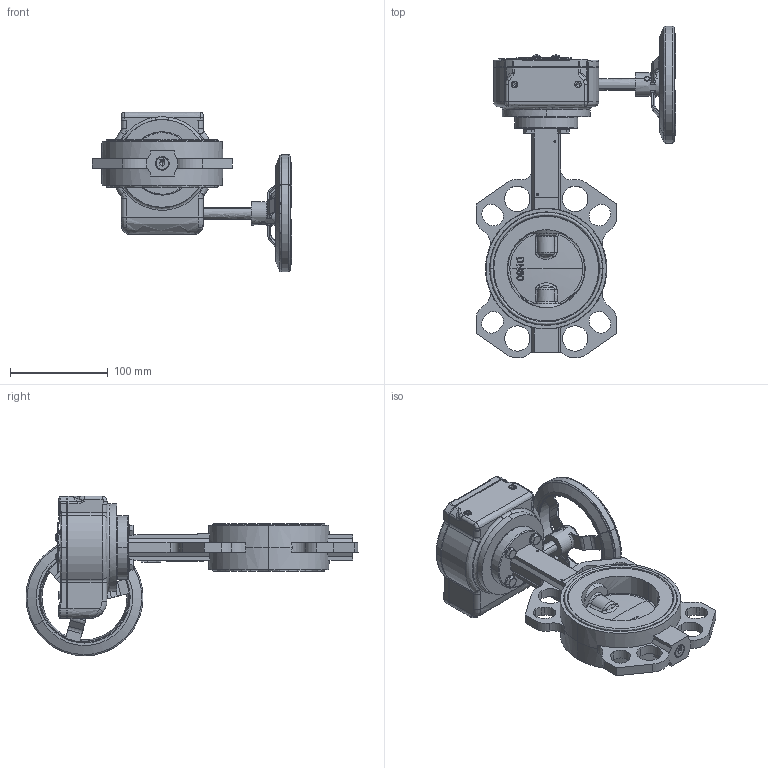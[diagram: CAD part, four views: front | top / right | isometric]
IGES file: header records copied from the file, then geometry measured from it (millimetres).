
Start section: SolidWorks IGES file using NURBS representation for surfaces
Global section: file name: H:\BE BIBLIOTHEQUE 3D\Projet_Biblio3D_2016\FSK\VPI\VPI-02\VPI-08 DN80.Igs; native system: SolidWorks 2014; preprocessor: SolidWorks 2014; author: a.cartier; date: 160929.160318; units: millimetre
Bounding box: 205.08 x 340.54 x 163.75 mm (x, y, z)
Volume: 959362.6 mm3; surface area: 306417.4 mm2
Topology: 32 solids, 34 shells, 2723 faces, 7099 edges, 4412 vertices
Faces by surface type: bspline 2723
